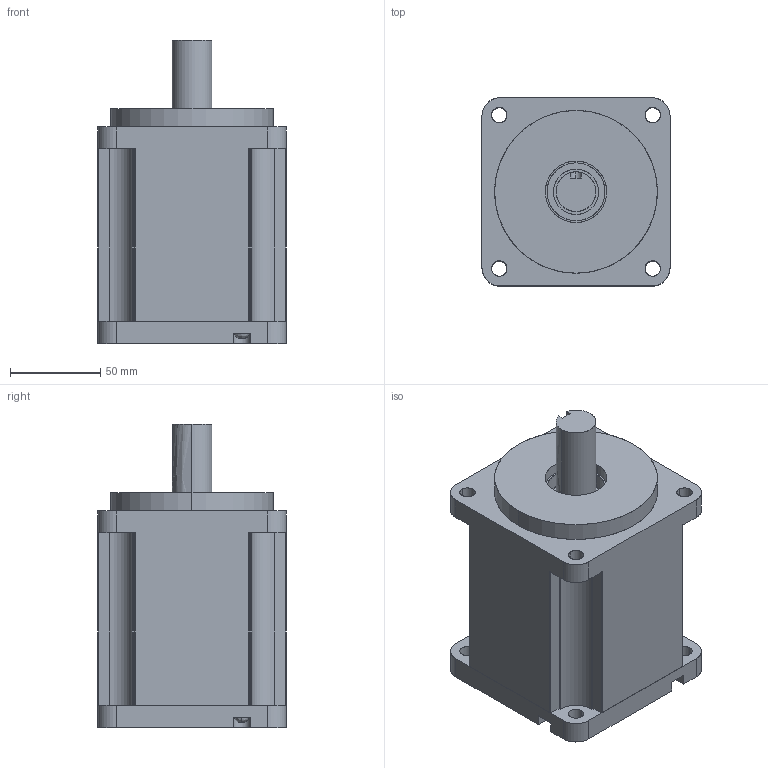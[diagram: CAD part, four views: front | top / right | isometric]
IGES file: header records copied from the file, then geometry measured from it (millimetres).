
Start section: SolidWorks IGES file using analytic representation for surfaces
Bounding box: 104 x 104 x 168 mm (x, y, z)
Surface area: 106596.6 mm2 (no closed solid volume)
Topology: 0 solids, 0 shells, 166 faces, 3323 edges, 3323 vertices
Faces by surface type: revolution 83, bspline 83
